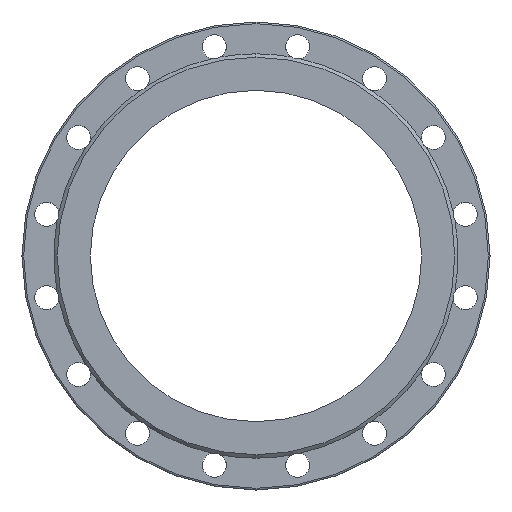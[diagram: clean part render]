
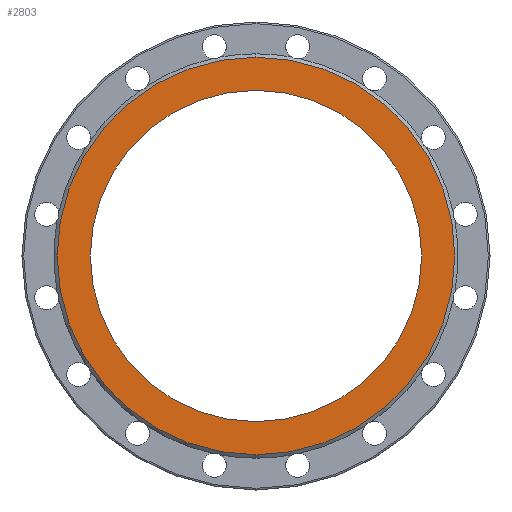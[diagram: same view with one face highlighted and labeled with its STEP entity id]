
A CAD part, left-side view. The second image highlights one B-rep face of the part: STEP entity #2803.
In plain terms, the highlighted planar face has unit normal (-1, 0, 0).
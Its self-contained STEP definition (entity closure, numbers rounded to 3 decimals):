
#91 = EDGE_CURVE ( 'Defeatured_0_3+Defeatured_0_4+Defeatured_0_4+Defeatured_0_4', #4784, #1964, #4288, .T. ) ;
#121 = DIRECTION ( 'NONE',  ( 0., 0., 1. ) ) ;
#154 = CARTESIAN_POINT ( 'NONE',  ( -350., 0., 240. ) ) ;
#249 = VERTEX_POINT ( 'NONE', #2315 ) ;
#447 = ORIENTED_EDGE ( 'NONE', *, *, #4151, .T. ) ;
#595 = EDGE_CURVE ( 'Defeatured_0_4+Defeatured_0_0+Defeatured_0_0+Defeatured_0_0', #249, #2790, #4295, .T. ) ;
#700 = FACE_OUTER_BOUND ( 'NONE', #5729, .T. ) ;
#793 = DIRECTION ( 'NONE',  ( -1., 0., 0. ) ) ;
#1529 = ORIENTED_EDGE ( 'NONE', *, *, #595, .T. ) ;
#1592 = AXIS2_PLACEMENT_3D ( 'NONE', #5372, #5903, #3875 ) ;
#1736 = FACE_BOUND ( 'NONE', #5089, .T. ) ;
#1798 = AXIS2_PLACEMENT_3D ( 'NONE', #6446, #2832, #5443 ) ;
#1964 = VERTEX_POINT ( 'NONE', #5193 ) ;
#2005 = AXIS2_PLACEMENT_3D ( 'NONE', #3800, #2284, #121 ) ;
#2284 = DIRECTION ( 'NONE',  ( -1., 0., 0. ) ) ;
#2315 = CARTESIAN_POINT ( 'NONE',  ( -350., 0., -240. ) ) ;
#2360 = AXIS2_PLACEMENT_3D ( 'NONE', #3897, #793, #5432 ) ;
#2776 = AXIS2_PLACEMENT_3D ( 'NONE', #3811, #5911, #6418 ) ;
#2790 = VERTEX_POINT ( 'NONE', #154 ) ;
#2803 = ADVANCED_FACE ( 'Defeatured_0_4', ( #1736, #700 ), #3302, .F. ) ;
#2832 = DIRECTION ( 'NONE',  ( -1., 0., 0. ) ) ;
#3162 = CARTESIAN_POINT ( 'NONE',  ( -350., 0., -200. ) ) ;
#3302 = PLANE ( 'NONE',  #1592 ) ;
#3541 = CIRCLE ( 'NONE', #2360, 200. ) ;
#3800 = CARTESIAN_POINT ( 'NONE',  ( -350., 0., 0. ) ) ;
#3811 = CARTESIAN_POINT ( 'NONE',  ( -350., 0., 0. ) ) ;
#3875 = DIRECTION ( 'NONE',  ( 0., 0., -1. ) ) ;
#3897 = CARTESIAN_POINT ( 'NONE',  ( -350., 0., 0. ) ) ;
#4151 = EDGE_CURVE ( 'Defeatured_0_4+Defeatured_0_0+Defeatured_0_0+Defeatured_0_0', #2790, #249, #4608, .T. ) ;
#4288 = CIRCLE ( 'NONE', #2005, 200. ) ;
#4295 = CIRCLE ( 'NONE', #2776, 240. ) ;
#4390 = ORIENTED_EDGE ( 'NONE', *, *, #5403, .F. ) ;
#4608 = CIRCLE ( 'NONE', #1798, 240. ) ;
#4784 = VERTEX_POINT ( 'NONE', #3162 ) ;
#5089 = EDGE_LOOP ( 'NONE', ( #4390, #6403 ) ) ;
#5193 = CARTESIAN_POINT ( 'NONE',  ( -350., 0., 200. ) ) ;
#5372 = CARTESIAN_POINT ( 'NONE',  ( -350., 200., 0. ) ) ;
#5403 = EDGE_CURVE ( 'Defeatured_0_3+Defeatured_0_4+Defeatured_0_4+Defeatured_0_4', #1964, #4784, #3541, .T. ) ;
#5432 = DIRECTION ( 'NONE',  ( 0., 0., 1. ) ) ;
#5443 = DIRECTION ( 'NONE',  ( 0., 0., 1. ) ) ;
#5729 = EDGE_LOOP ( 'NONE', ( #1529, #447 ) ) ;
#5903 = DIRECTION ( 'NONE',  ( 1., 0., 0. ) ) ;
#5911 = DIRECTION ( 'NONE',  ( -1., 0., 0. ) ) ;
#6403 = ORIENTED_EDGE ( 'NONE', *, *, #91, .F. ) ;
#6418 = DIRECTION ( 'NONE',  ( 0., 0., 1. ) ) ;
#6446 = CARTESIAN_POINT ( 'NONE',  ( -350., 0., 0. ) ) ;
